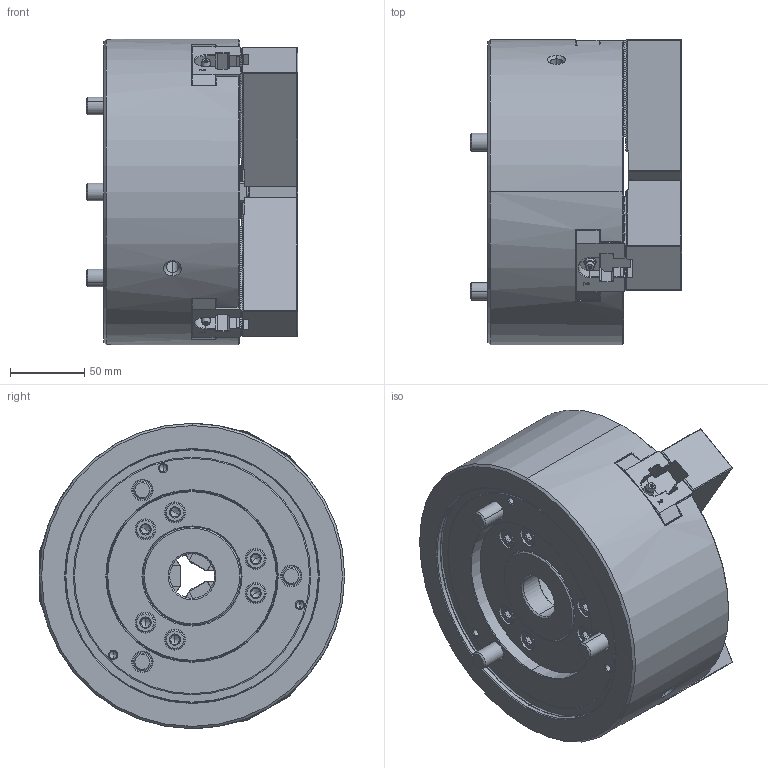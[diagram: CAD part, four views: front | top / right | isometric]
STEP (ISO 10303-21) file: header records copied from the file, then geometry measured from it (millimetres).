
FILE_DESCRIPTION (( 'STEP AP203' ), '1' );
FILE_NAME ('B-208M_HCL.STEP', '2025-09-05T09:35:59', ( '' ), ( '' ), 'SwSTEP 2.0', 'SolidWorks 2022', '' );
FILE_SCHEMA (( 'CONFIG_CONTROL_DESIGN' ));
Length unit declared in the file: millimetre
Products named in the file (9): Copy of DEV-B-208M-Bアナツキボタン M5x10^DEV-B-208M-クミタテ; Part1^DEV-B-208M-クミタテ; Copy of DEV-B-208M-カバー^DEV-B-208M-クミタテ; Copy of DEV-B-208M-ソフトジョー^DEV-B-208M-クミタテ; B-208M_HCL; Copy of DEV-B-208M-Bアナツキ M12x90^DEV-B-208M-クミタテ; Copy of DEV-B-208M-ドローナット^DEV-B-208M-クミタテ_ねじ切りなし; Copy of DEV-B-208M-Bアナツキ M12x30^DEV-B-208M-クミタテ; Copy of DEV-B-208M-Tナット^DEV-B-208M-クミタテ
Assembly tree (21 placements, depth 2):
  B-208M_HCL
    Copy of DEV-B-208M-Bアナツキボタン M5x10^DEV-B-208M-クミタテ  x3
    Copy of DEV-B-208M-Bアナツキ M12x30^DEV-B-208M-クミタテ  x6
    Copy of DEV-B-208M-Bアナツキ M12x90^DEV-B-208M-クミタテ  x3
    Copy of DEV-B-208M-ソフトジョー^DEV-B-208M-クミタテ  x3
    Copy of DEV-B-208M-Tナット^DEV-B-208M-クミタテ  x3
    Copy of DEV-B-208M-ドローナット^DEV-B-208M-クミタテ_ねじ切りなし
    Copy of DEV-B-208M-カバー^DEV-B-208M-クミタテ
    Part1^DEV-B-208M-クミタテ
Bounding box: 142.2 x 205.04 x 205 mm (x, y, z)
Volume: 2949759.4 mm3; surface area: 330075.9 mm2
Topology: 21 solids, 33 shells, 4072 faces, 11363 edges, 7406 vertices
Faces by surface type: plane 2522, cylinder 972, cone 348, bspline 156, torus 66, sphere 8
Entity records: 92350 total; most frequent: CARTESIAN_POINT 24495, ORIENTED_EDGE 14810, DIRECTION 12491, EDGE_CURVE 7405, VECTOR 5361, LINE 5361, VERTEX_POINT 4835, AXIS2_PLACEMENT_3D 3565
